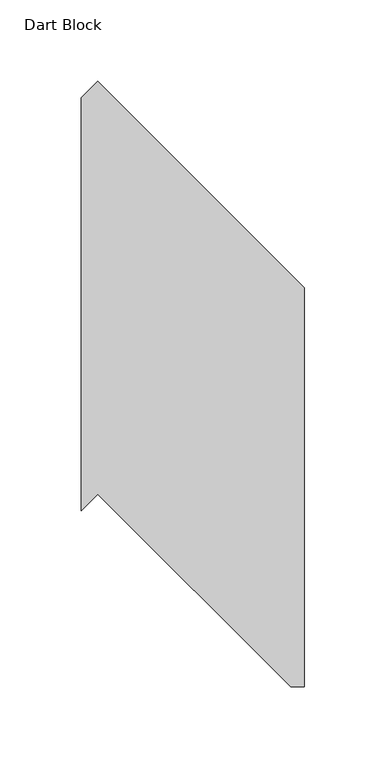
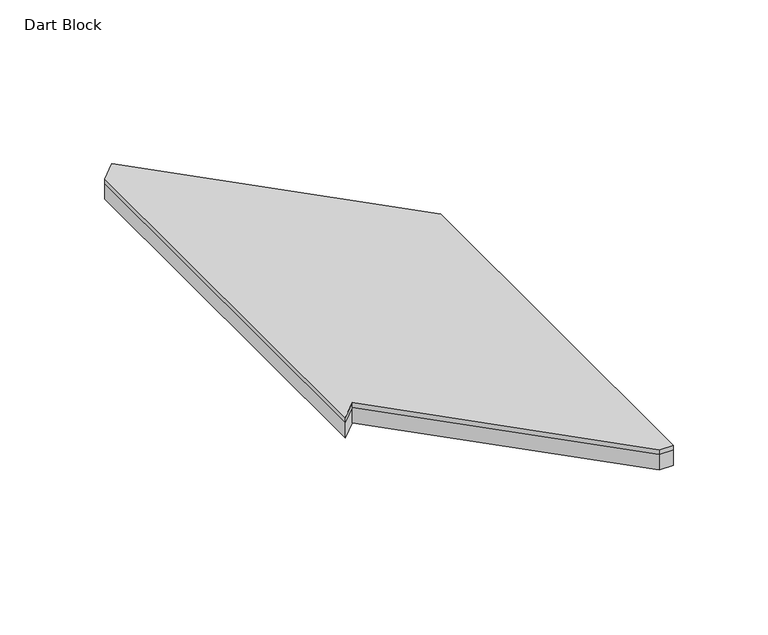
"""IFC4 building model written with IfcOpenShell, lengths in millimetres: proxy geometry, FilzFelt_Dart_Block : Dart Block."""

import ifcopenshell
import ifcopenshell.guid

model = None  # the IFC model being written
_history = None  # IfcOwnerHistory: only IFC2X3 demands one
_inside = {}  # id of a spatial element -> (the spatial element, [elements in it])
_under = {}  # id of a project, library or spatial element -> (it, [spatial elements below it])
_declared = {}  # id of a project -> (the project, [libraries it declares])
_typed = {}  # id of a type object -> (the type object, [elements of that type])
_made_of = {}  # id of a material, layer set ... -> (it, [elements and type objects made of it])


def new_model(schema):
    """Start an empty IFC model of exactly this schema.

    Asked for "IFC4X3", IfcOpenShell would pick the latest addendum, in which some entities
    have other attributes; the version numbers below select the first issue.
    IFC2X3 requires an IfcOwnerHistory on every rooted entity: one is made here for all.
    """
    global model, _history
    if schema == "IFC4X3":
        model = ifcopenshell.file(schema_version=(4, 3, 0, 0))
    else:
        model = ifcopenshell.file(schema=schema)
    _inside.clear()
    _under.clear()
    _declared.clear()
    _typed.clear()
    _made_of.clear()
    _history = None
    if model.schema == "IFC2X3":
        org = make("IfcOrganization", Name="unknown")
        user = make(
            "IfcPersonAndOrganization",
            ThePerson=make("IfcPerson", FamilyName="unknown"),
            TheOrganization=org,
        )
        app = make(
            "IfcApplication",
            ApplicationDeveloper=org,
            Version="unknown",
            ApplicationFullName="unknown",
            ApplicationIdentifier="unknown",
        )
        _history = make(
            "IfcOwnerHistory",
            OwningUser=user,
            OwningApplication=app,
            ChangeAction="ADDED",
            CreationDate=0,
        )
    return model


def make(cls, **values):
    """One entity of the class cls with the attributes given. An attribute that is None is left unset."""
    return model.create_entity(
        cls, **{name: value for name, value in values.items() if value is not None}
    )


def rooted(cls, **values):
    """An entity with a GlobalId (a new one), such as an element, a storey or a relation."""
    return make(cls, GlobalId=ifcopenshell.guid.new(), OwnerHistory=_history, **values)


def si_unit(unit_type, name, prefix=None):
    """IfcSIUnit, for example si_unit("LENGTHUNIT", "METRE", prefix="MILLI")."""
    return make("IfcSIUnit", UnitType=unit_type, Prefix=prefix, Name=name)


def assignment(units):
    """IfcUnitAssignment: the units of a project."""
    return None if units is None else make("IfcUnitAssignment", Units=units)


def point(xyz):
    """IfcCartesianPoint."""
    return None if xyz is None else make("IfcCartesianPoint", Coordinates=xyz)


def direction(xyz):
    """IfcDirection."""
    return None if xyz is None else make("IfcDirection", DirectionRatios=xyz)


def frame(location, z_axis=None, x_axis=None):
    """IfcAxis2Placement3D, a coordinate frame: its origin and axes. An axis left out is left unset."""
    return make(
        "IfcAxis2Placement3D",
        Location=point(location),
        Axis=direction(z_axis),
        RefDirection=direction(x_axis),
    )


def origin():
    """The frame at (0, 0, 0) with its axes left unset."""
    return frame((0.0, 0.0, 0.0))


def origin_with_axes():
    """The frame at (0, 0, 0) with the z axis (0, 0, 1) and the x axis (1, 0, 0) written out."""
    return frame((0.0, 0.0, 0.0), z_axis=(0.0, 0.0, 1.0), x_axis=(1.0, 0.0, 0.0))


def place(relative_to, where):
    """IfcLocalPlacement: puts the frame where relative to a parent placement (None: the world)."""
    return make(
        "IfcLocalPlacement", PlacementRelTo=relative_to, RelativePlacement=where
    )


def context(
    kind, dimensions, precision=None, world=None, true_north=None, identifier=None
):
    """IfcGeometricRepresentationContext, for example the 3D "Model" context."""
    return make(
        "IfcGeometricRepresentationContext",
        ContextIdentifier=identifier,
        ContextType=kind,
        CoordinateSpaceDimension=dimensions,
        Precision=precision,
        WorldCoordinateSystem=world,
        TrueNorth=true_north,
    )


def project(units=None, contexts=None):
    """IfcProject with its units and contexts."""
    return rooted(
        "IfcProject",
        Name="project",
        RepresentationContexts=contexts,
        UnitsInContext=assignment(units),
    )


def spatial(cls, under=None, at=None, **own):
    """A site, building, storey or space (cls), placed at a placement, below another one or the project."""
    s = rooted(cls, ObjectPlacement=at, **own)
    if under is not None:
        _under.setdefault(under.id(), (under, []))[1].append(s)
    return s


def polyline(points):
    """IfcPolyline through the points."""
    return make("IfcPolyline", Points=[point(p) for p in points])


def outline(outer, holes=None, kind="AREA"):
    """IfcArbitraryClosedProfileDef: a profile drawn as a closed curve; with holes, ...WithVoids."""
    if holes is None:
        return make("IfcArbitraryClosedProfileDef", ProfileType=kind, OuterCurve=outer)
    return make(
        "IfcArbitraryProfileDefWithVoids",
        ProfileType=kind,
        OuterCurve=outer,
        InnerCurves=holes,
    )


def extrude(swept, where, along, depth):
    """IfcExtrudedAreaSolid: the profile swept, set in the frame where, extruded along a direction by depth."""
    return make(
        "IfcExtrudedAreaSolid",
        SweptArea=swept,
        Position=where,
        ExtrudedDirection=direction(along),
        Depth=depth,
    )


def shape(context_of_items, identifier, shape_type, items):
    """IfcShapeRepresentation: the items that make up one representation, for example the "Body"."""
    return make(
        "IfcShapeRepresentation",
        ContextOfItems=context_of_items,
        RepresentationIdentifier=identifier,
        RepresentationType=shape_type,
        Items=items,
    )


def source(mapping_origin, context_of_items, identifier, shape_type, items):
    """IfcRepresentationMap: a shape defined once, which mapped items show again and again."""
    return make(
        "IfcRepresentationMap",
        MappingOrigin=mapping_origin,
        MappedRepresentation=shape(context_of_items, identifier, shape_type, items),
    )


def transform(
    local_origin,
    x_axis=None,
    y_axis=None,
    z_axis=None,
    scale=None,
    scale2=None,
    scale3=None,
    uniform=True,
):
    """IfcCartesianTransformationOperator3D, or its non-uniform kind. x_axis, y_axis, z_axis: its Axis1, 2, 3."""
    if uniform:
        return make(
            "IfcCartesianTransformationOperator3D",
            Axis1=direction(x_axis),
            Axis2=direction(y_axis),
            LocalOrigin=point(local_origin),
            Scale=scale,
            Axis3=direction(z_axis),
        )
    return make(
        "IfcCartesianTransformationOperator3DnonUniform",
        Axis1=direction(x_axis),
        Axis2=direction(y_axis),
        LocalOrigin=point(local_origin),
        Scale=scale,
        Axis3=direction(z_axis),
        Scale2=scale2,
        Scale3=scale3,
    )


def mapped(mapping_source, mapping_target):
    """IfcMappedItem: shows the shape of a source again, moved by a transform."""
    return make(
        "IfcMappedItem", MappingSource=mapping_source, MappingTarget=mapping_target
    )


def made_of(thing, what):
    """Note that an element or type object is made of a material, layer set ...; save() writes the relation."""
    if what is not None:
        _made_of.setdefault(what.id(), (what, []))[1].append(thing)
    return thing


def element(
    cls,
    number,
    at=None,
    inside=None,
    cuts=None,
    type_object=None,
    material=None,
    context=None,
    identifier="Body",
    shape_type=None,
    held_by="IfcProductDefinitionShape",
    body=None,
    shapes=None,
    **own,
):
    """One element of the class cls, such as IfcWall. Its Tag is "e" and its number.

    at: its placement. inside: the storey or other place that contains it. cuts: it is an
    opening in that element (IfcRelVoidsElement). A single representation is given by context,
    identifier, shape_type and body (its items); several are given by shapes. held_by: the class
    of the entity that holds the representations. save() writes the other relations.
    """
    e = rooted(cls, Tag="e%d" % number, ObjectPlacement=at, **own)
    if body is not None:
        shapes = [shape(context, identifier, shape_type, body)]
    if shapes is not None:
        e.Representation = make(held_by, Representations=shapes)
    if inside is not None:
        _inside.setdefault(inside.id(), (inside, []))[1].append(e)
    if cuts is not None:
        rooted(
            "IfcRelVoidsElement", RelatingBuildingElement=cuts, RelatedOpeningElement=e
        )
    if type_object is not None:
        _typed.setdefault(type_object.id(), (type_object, []))[1].append(e)
    return made_of(e, material)


def aggregate(whole, parts):
    """IfcRelAggregates: a whole, such as a stair, and the parts it consists of."""
    return rooted("IfcRelAggregates", RelatingObject=whole, RelatedObjects=parts)


def save(model, path):
    """Write the relations noted so far, then the file.

    IfcRelAggregates (storeys below a building ...), IfcRelContainedInSpatialStructure (elements
    in a storey), IfcRelDefinesByType, IfcRelAssociatesMaterial and IfcRelDeclares: one each for
    every whole, place, type object, material and project.
    """
    for whole, parts in _under.values():
        aggregate(whole, parts)
    for where, things in _inside.values():
        rooted(
            "IfcRelContainedInSpatialStructure",
            RelatedElements=things,
            RelatingStructure=where,
        )
    for kind, things in _typed.values():
        rooted("IfcRelDefinesByType", RelatedObjects=things, RelatingType=kind)
    for what, things in _made_of.values():
        rooted("IfcRelAssociatesMaterial", RelatedObjects=things, RelatingMaterial=what)
    for by, libraries in _declared.values():
        rooted("IfcRelDeclares", RelatingContext=by, RelatedDefinitions=libraries)
    model.write(path)


def dart_block_9a46b005(model_context):
    return source(origin(), model_context, "Body", "SweptSolid", [
        extrude(outline(polyline([(0.0, 190.5), (127.0, 63.5), (127.0, -182.0423284), (118.5423284, -182.0423284), (0.0, -63.5), (-10.2951413, -73.7951413), (-10.2951413, 180.2048587), (0.0, 190.5)])), frame((0.0, 0.0, 10.0210937), z_axis=(0.0, 0.0, 1.0), x_axis=(1.0, 0.0, 0.0)), (0.0, 0.0, 1.0), 2.9765625),
        extrude(outline(polyline([(0.0, 190.5), (127.0, 63.5), (127.0, -182.0423284), (118.5423284, -182.0423284), (0.0, -63.5), (-10.2951413, -73.7951413), (-10.2951413, 180.2048587), (0.0, 190.5)])), origin_with_axes(), (0.0, 0.0, 1.0), 10.0210938),
    ])


if __name__ == "__main__":
    model = new_model("IFC4")
    model_context = context("Model", 3, world=origin())
    ifc_project = project(units=[si_unit("LENGTHUNIT", "METRE", prefix="MILLI")], contexts=[model_context])
    site = spatial("IfcSite", under=ifc_project)
    building = spatial("IfcBuilding", under=site)
    placement = place(None, origin())
    dart_block_shape = dart_block_9a46b005(model_context)
    element("IfcBuildingElementProxy", 1, Name="FilzFelt_Dart_Block : Dart Block", ObjectType="FilzFelt_Dart_Block : Dart Block", at=placement, inside=building, context=model_context, shape_type="MappedRepresentation", body=[
        mapped(dart_block_shape, transform((0.0, 0.0, 0.0), x_axis=(1.0, 0.0, 0.0), y_axis=(0.0, 1.0, 0.0), z_axis=(0.0, 0.0, 1.0))),
    ])
    save(model, "model.ifc")
